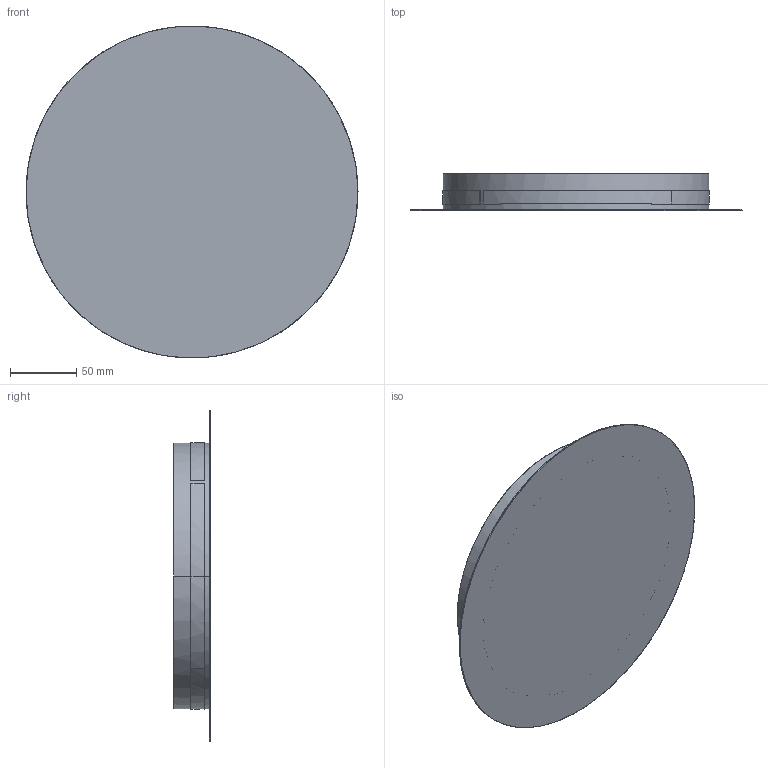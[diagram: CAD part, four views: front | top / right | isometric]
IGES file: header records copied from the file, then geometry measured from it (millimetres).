
Start section: SolidWorks IGES file using NURBS representation for surfaces
Global section: file name: Z:\Modele 3D_WWW\_KOLEKCJE_WWW\RING-LED\RING-LED-M-7635-7638\RING-LED-M-7635-7638.IGS; native system: SolidWorks 2021; preprocessor: SolidWorks 2021; author: gabriela.tworek; date: 211117.131053; units: millimetre
Bounding box: 250 x 27.8 x 249.91 mm (x, y, z)
Surface area: 146757.6 mm2 (no closed solid volume)
Topology: 0 solids, 0 shells, 20 faces, 700 edges, 700 vertices
Faces by surface type: bspline 20
